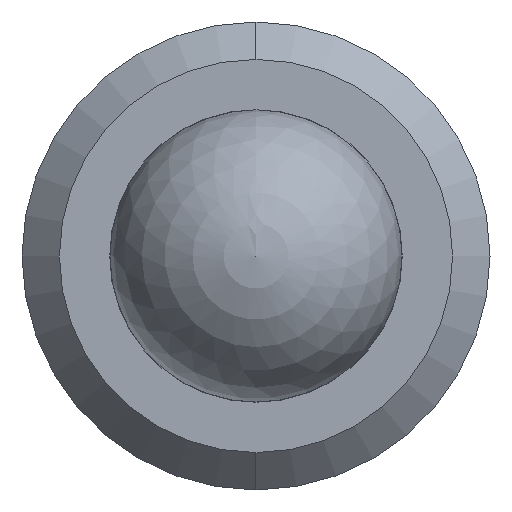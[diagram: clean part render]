
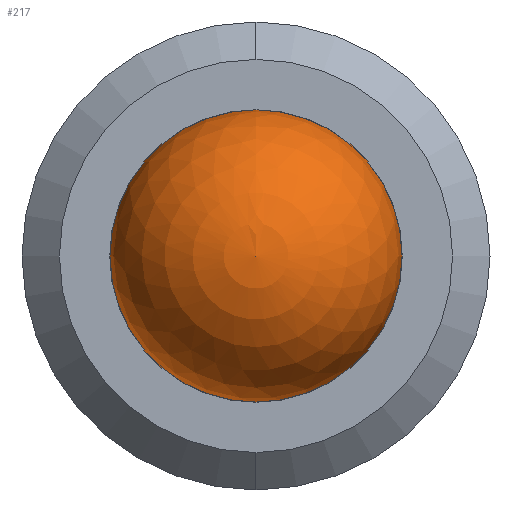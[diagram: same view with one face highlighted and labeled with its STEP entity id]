
A CAD part, left-side view. The second image highlights one B-rep face of the part: STEP entity #217.
In plain terms, the highlighted spherical face has radius 1.984 mm.
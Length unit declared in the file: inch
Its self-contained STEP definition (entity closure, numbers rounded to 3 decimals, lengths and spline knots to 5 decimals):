
#3 = ORIENTED_EDGE ( 'NONE', *, *, #400, .T. ) ;
#9 = ORIENTED_EDGE ( 'NONE', *, *, #414, .F. ) ;
#66 = EDGE_LOOP ( 'NONE', ( #9, #3 ) ) ;
#76 = AXIS2_PLACEMENT_3D ( 'NONE', #364, #80, #422 ) ;
#78 = DIRECTION ( 'NONE',  ( -1., 0., 0. ) ) ;
#80 = DIRECTION ( 'NONE',  ( 1., 0., 0. ) ) ;
#91 = SPHERICAL_SURFACE ( 'NONE', #303, 0.07813 ) ;
#150 = CIRCLE ( 'NONE', #76, 0.07813 ) ;
#151 = AXIS2_PLACEMENT_3D ( 'NONE', #363, #78, #419 ) ;
#217 = ADVANCED_FACE ( 'NONE', ( #514 ), #91, .T. ) ;
#250 = DIRECTION ( 'NONE',  ( -1., 0., 0. ) ) ;
#287 = DIRECTION ( 'NONE',  ( 0., 0., 1. ) ) ;
#298 = CIRCLE ( 'NONE', #151, 0.07813 ) ;
#303 = AXIS2_PLACEMENT_3D ( 'NONE', #390, #250, #287 ) ;
#338 = CARTESIAN_POINT ( 'NONE',  ( 0., 0.07813, 0. ) ) ;
#354 = CARTESIAN_POINT ( 'NONE',  ( 0., -0.07813, 0. ) ) ;
#355 = VERTEX_POINT ( 'NONE', #338 ) ;
#363 = CARTESIAN_POINT ( 'NONE',  ( 0., 0., 0. ) ) ;
#364 = CARTESIAN_POINT ( 'NONE',  ( 0., 0., 0. ) ) ;
#390 = CARTESIAN_POINT ( 'NONE',  ( 0., 0., 0. ) ) ;
#400 = EDGE_CURVE ( 'NONE', #355, #572, #298, .T. ) ;
#414 = EDGE_CURVE ( 'NONE', #355, #572, #150, .T. ) ;
#419 = DIRECTION ( 'NONE',  ( 0., 0., 1. ) ) ;
#422 = DIRECTION ( 'NONE',  ( 0., 0., -1. ) ) ;
#514 = FACE_OUTER_BOUND ( 'NONE', #66, .T. ) ;
#572 = VERTEX_POINT ( 'NONE', #354 ) ;
